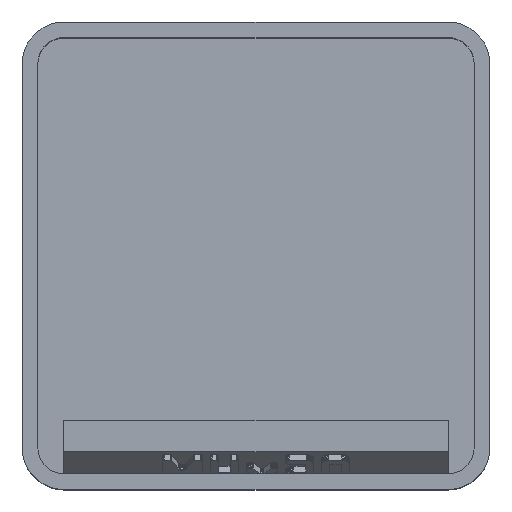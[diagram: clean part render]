
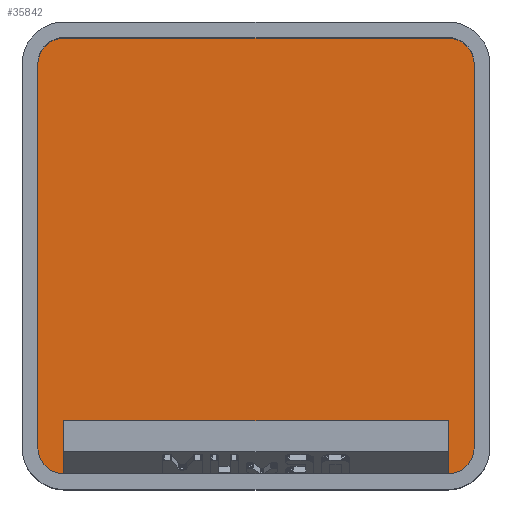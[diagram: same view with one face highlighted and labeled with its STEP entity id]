
A CAD part, top view. The second image highlights one B-rep face of the part: STEP entity #35842.
In plain terms, the highlighted planar face has unit normal (0, 0, 1).
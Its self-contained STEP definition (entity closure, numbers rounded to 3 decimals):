
#912 = PLANE('',#913);
#913 = AXIS2_PLACEMENT_3D('',#914,#915,#916);
#914 = CARTESIAN_POINT('',(-19.6,0.,30.));
#915 = DIRECTION('',(-1.,0.,0.));
#916 = DIRECTION('',(-0.,-1.,-0.));
#940 = CYLINDRICAL_SURFACE('',#941,2.35);
#941 = AXIS2_PLACEMENT_3D('',#942,#943,#944);
#942 = CARTESIAN_POINT('',(-17.25,17.25,5.95));
#943 = DIRECTION('',(-0.,-0.,1.));
#944 = DIRECTION('',(-1.,0.,0.));
#967 = PLANE('',#968);
#968 = AXIS2_PLACEMENT_3D('',#969,#970,#971);
#969 = CARTESIAN_POINT('',(0.,19.6,30.));
#970 = DIRECTION('',(0.,1.,0.));
#971 = DIRECTION('',(-1.,0.,0.));
#995 = CYLINDRICAL_SURFACE('',#996,2.35);
#996 = AXIS2_PLACEMENT_3D('',#997,#998,#999);
#997 = CARTESIAN_POINT('',(17.25,17.25,5.95));
#998 = DIRECTION('',(-0.,-0.,1.));
#999 = DIRECTION('',(-1.,0.,0.));
#1022 = PLANE('',#1023);
#1023 = AXIS2_PLACEMENT_3D('',#1024,#1025,#1026);
#1024 = CARTESIAN_POINT('',(19.6,0.,30.));
#1025 = DIRECTION('',(1.,0.,0.));
#1026 = DIRECTION('',(-0.,1.,0.));
#1050 = CYLINDRICAL_SURFACE('',#1051,2.35);
#1051 = AXIS2_PLACEMENT_3D('',#1052,#1053,#1054);
#1052 = CARTESIAN_POINT('',(17.25,-17.25,5.95));
#1053 = DIRECTION('',(-0.,-0.,1.));
#1054 = DIRECTION('',(-1.,0.,0.));
#1103 = CYLINDRICAL_SURFACE('',#1104,2.35);
#1104 = AXIS2_PLACEMENT_3D('',#1105,#1106,#1107);
#1105 = CARTESIAN_POINT('',(-17.25,-17.25,5.95));
#1106 = DIRECTION('',(-0.,-0.,1.));
#1107 = DIRECTION('',(-1.,0.,0.));
#13393 = EDGE_CURVE('',#13394,#13396,#13398,.T.);
#13394 = VERTEX_POINT('',#13395);
#13395 = CARTESIAN_POINT('',(-19.6,-17.25,5.95));
#13396 = VERTEX_POINT('',#13397);
#13397 = CARTESIAN_POINT('',(-19.6,17.25,5.95));
#13398 = SURFACE_CURVE('',#13399,(#13403,#13410),.PCURVE_S1.);
#13399 = LINE('',#13400,#13401);
#13400 = CARTESIAN_POINT('',(-19.6,0.,5.95));
#13401 = VECTOR('',#13402,1.);
#13402 = DIRECTION('',(0.,1.,0.));
#13403 = PCURVE('',#912,#13404);
#13404 = DEFINITIONAL_REPRESENTATION('',(#13405),#13409);
#13405 = LINE('',#13406,#13407);
#13406 = CARTESIAN_POINT('',(0.,-24.05));
#13407 = VECTOR('',#13408,1.);
#13408 = DIRECTION('',(-1.,0.));
#13409 = ( GEOMETRIC_REPRESENTATION_CONTEXT(2) 
PARAMETRIC_REPRESENTATION_CONTEXT() REPRESENTATION_CONTEXT('2D SPACE',''
  ) );
#13410 = PCURVE('',#13411,#13416);
#13411 = PLANE('',#13412);
#13412 = AXIS2_PLACEMENT_3D('',#13413,#13414,#13415);
#13413 = CARTESIAN_POINT('',(-17.25,-17.25,5.95));
#13414 = DIRECTION('',(0.,0.,-1.));
#13415 = DIRECTION('',(-1.,0.,0.));
#13416 = DEFINITIONAL_REPRESENTATION('',(#13417),#13421);
#13417 = LINE('',#13418,#13419);
#13418 = CARTESIAN_POINT('',(2.35,17.25));
#13419 = VECTOR('',#13420,1.);
#13420 = DIRECTION('',(0.,1.));
#13421 = ( GEOMETRIC_REPRESENTATION_CONTEXT(2) 
PARAMETRIC_REPRESENTATION_CONTEXT() REPRESENTATION_CONTEXT('2D SPACE',''
  ) );
#13468 = EDGE_CURVE('',#13469,#13394,#13471,.T.);
#13469 = VERTEX_POINT('',#13470);
#13470 = CARTESIAN_POINT('',(-17.25,-19.6,5.95));
#13471 = SURFACE_CURVE('',#13472,(#13477,#13484),.PCURVE_S1.);
#13472 = CIRCLE('',#13473,2.35);
#13473 = AXIS2_PLACEMENT_3D('',#13474,#13475,#13476);
#13474 = CARTESIAN_POINT('',(-17.25,-17.25,5.95));
#13475 = DIRECTION('',(0.,0.,-1.));
#13476 = DIRECTION('',(-1.,0.,0.));
#13477 = PCURVE('',#1103,#13478);
#13478 = DEFINITIONAL_REPRESENTATION('',(#13479),#13483);
#13479 = LINE('',#13480,#13481);
#13480 = CARTESIAN_POINT('',(6.283,0.));
#13481 = VECTOR('',#13482,1.);
#13482 = DIRECTION('',(-1.,0.));
#13483 = ( GEOMETRIC_REPRESENTATION_CONTEXT(2) 
PARAMETRIC_REPRESENTATION_CONTEXT() REPRESENTATION_CONTEXT('2D SPACE',''
  ) );
#13484 = PCURVE('',#13411,#13485);
#13485 = DEFINITIONAL_REPRESENTATION('',(#13486),#13490);
#13486 = CIRCLE('',#13487,2.35);
#13487 = AXIS2_PLACEMENT_2D('',#13488,#13489);
#13488 = CARTESIAN_POINT('',(0.,0.));
#13489 = DIRECTION('',(1.,0.));
#13490 = ( GEOMETRIC_REPRESENTATION_CONTEXT(2) 
PARAMETRIC_REPRESENTATION_CONTEXT() REPRESENTATION_CONTEXT('2D SPACE',''
  ) );
#13508 = PLANE('',#13509);
#13509 = AXIS2_PLACEMENT_3D('',#13510,#13511,#13512);
#13510 = CARTESIAN_POINT('',(0.,-19.6,30.));
#13511 = DIRECTION('',(0.,-1.,0.));
#13512 = DIRECTION('',(1.,0.,0.));
#13595 = EDGE_CURVE('',#13596,#13598,#13600,.T.);
#13596 = VERTEX_POINT('',#13597);
#13597 = CARTESIAN_POINT('',(19.6,-17.25,5.95));
#13598 = VERTEX_POINT('',#13599);
#13599 = CARTESIAN_POINT('',(17.25,-19.6,5.95));
#13600 = SURFACE_CURVE('',#13601,(#13606,#13613),.PCURVE_S1.);
#13601 = CIRCLE('',#13602,2.35);
#13602 = AXIS2_PLACEMENT_3D('',#13603,#13604,#13605);
#13603 = CARTESIAN_POINT('',(17.25,-17.25,5.95));
#13604 = DIRECTION('',(0.,0.,-1.));
#13605 = DIRECTION('',(-1.,0.,0.));
#13606 = PCURVE('',#1050,#13607);
#13607 = DEFINITIONAL_REPRESENTATION('',(#13608),#13612);
#13608 = LINE('',#13609,#13610);
#13609 = CARTESIAN_POINT('',(6.283,0.));
#13610 = VECTOR('',#13611,1.);
#13611 = DIRECTION('',(-1.,0.));
#13612 = ( GEOMETRIC_REPRESENTATION_CONTEXT(2) 
PARAMETRIC_REPRESENTATION_CONTEXT() REPRESENTATION_CONTEXT('2D SPACE',''
  ) );
#13613 = PCURVE('',#13411,#13614);
#13614 = DEFINITIONAL_REPRESENTATION('',(#13615),#13619);
#13615 = CIRCLE('',#13616,2.35);
#13616 = AXIS2_PLACEMENT_2D('',#13617,#13618);
#13617 = CARTESIAN_POINT('',(-34.5,0.));
#13618 = DIRECTION('',(1.,0.));
#13619 = ( GEOMETRIC_REPRESENTATION_CONTEXT(2) 
PARAMETRIC_REPRESENTATION_CONTEXT() REPRESENTATION_CONTEXT('2D SPACE',''
  ) );
#13693 = EDGE_CURVE('',#13596,#13694,#13696,.T.);
#13694 = VERTEX_POINT('',#13695);
#13695 = CARTESIAN_POINT('',(19.6,17.25,5.95));
#13696 = SURFACE_CURVE('',#13697,(#13701,#13708),.PCURVE_S1.);
#13697 = LINE('',#13698,#13699);
#13698 = CARTESIAN_POINT('',(19.6,0.,5.95));
#13699 = VECTOR('',#13700,1.);
#13700 = DIRECTION('',(0.,1.,0.));
#13701 = PCURVE('',#1022,#13702);
#13702 = DEFINITIONAL_REPRESENTATION('',(#13703),#13707);
#13703 = LINE('',#13704,#13705);
#13704 = CARTESIAN_POINT('',(0.,-24.05));
#13705 = VECTOR('',#13706,1.);
#13706 = DIRECTION('',(1.,0.));
#13707 = ( GEOMETRIC_REPRESENTATION_CONTEXT(2) 
PARAMETRIC_REPRESENTATION_CONTEXT() REPRESENTATION_CONTEXT('2D SPACE',''
  ) );
#13708 = PCURVE('',#13411,#13709);
#13709 = DEFINITIONAL_REPRESENTATION('',(#13710),#13714);
#13710 = LINE('',#13711,#13712);
#13711 = CARTESIAN_POINT('',(-36.85,17.25));
#13712 = VECTOR('',#13713,1.);
#13713 = DIRECTION('',(0.,1.));
#13714 = ( GEOMETRIC_REPRESENTATION_CONTEXT(2) 
PARAMETRIC_REPRESENTATION_CONTEXT() REPRESENTATION_CONTEXT('2D SPACE',''
  ) );
#13741 = EDGE_CURVE('',#13742,#13694,#13744,.T.);
#13742 = VERTEX_POINT('',#13743);
#13743 = CARTESIAN_POINT('',(17.25,19.6,5.95));
#13744 = SURFACE_CURVE('',#13745,(#13750,#13757),.PCURVE_S1.);
#13745 = CIRCLE('',#13746,2.35);
#13746 = AXIS2_PLACEMENT_3D('',#13747,#13748,#13749);
#13747 = CARTESIAN_POINT('',(17.25,17.25,5.95));
#13748 = DIRECTION('',(0.,0.,-1.));
#13749 = DIRECTION('',(-1.,0.,0.));
#13750 = PCURVE('',#995,#13751);
#13751 = DEFINITIONAL_REPRESENTATION('',(#13752),#13756);
#13752 = LINE('',#13753,#13754);
#13753 = CARTESIAN_POINT('',(6.283,0.));
#13754 = VECTOR('',#13755,1.);
#13755 = DIRECTION('',(-1.,0.));
#13756 = ( GEOMETRIC_REPRESENTATION_CONTEXT(2) 
PARAMETRIC_REPRESENTATION_CONTEXT() REPRESENTATION_CONTEXT('2D SPACE',''
  ) );
#13757 = PCURVE('',#13411,#13758);
#13758 = DEFINITIONAL_REPRESENTATION('',(#13759),#13763);
#13759 = CIRCLE('',#13760,2.35);
#13760 = AXIS2_PLACEMENT_2D('',#13761,#13762);
#13761 = CARTESIAN_POINT('',(-34.5,34.5));
#13762 = DIRECTION('',(1.,0.));
#13763 = ( GEOMETRIC_REPRESENTATION_CONTEXT(2) 
PARAMETRIC_REPRESENTATION_CONTEXT() REPRESENTATION_CONTEXT('2D SPACE',''
  ) );
#13791 = EDGE_CURVE('',#13792,#13742,#13794,.T.);
#13792 = VERTEX_POINT('',#13793);
#13793 = CARTESIAN_POINT('',(-17.25,19.6,5.95));
#13794 = SURFACE_CURVE('',#13795,(#13799,#13806),.PCURVE_S1.);
#13795 = LINE('',#13796,#13797);
#13796 = CARTESIAN_POINT('',(0.,19.6,5.95));
#13797 = VECTOR('',#13798,1.);
#13798 = DIRECTION('',(1.,0.,0.));
#13799 = PCURVE('',#967,#13800);
#13800 = DEFINITIONAL_REPRESENTATION('',(#13801),#13805);
#13801 = LINE('',#13802,#13803);
#13802 = CARTESIAN_POINT('',(0.,-24.05));
#13803 = VECTOR('',#13804,1.);
#13804 = DIRECTION('',(-1.,0.));
#13805 = ( GEOMETRIC_REPRESENTATION_CONTEXT(2) 
PARAMETRIC_REPRESENTATION_CONTEXT() REPRESENTATION_CONTEXT('2D SPACE',''
  ) );
#13806 = PCURVE('',#13411,#13807);
#13807 = DEFINITIONAL_REPRESENTATION('',(#13808),#13812);
#13808 = LINE('',#13809,#13810);
#13809 = CARTESIAN_POINT('',(-17.25,36.85));
#13810 = VECTOR('',#13811,1.);
#13811 = DIRECTION('',(-1.,0.));
#13812 = ( GEOMETRIC_REPRESENTATION_CONTEXT(2) 
PARAMETRIC_REPRESENTATION_CONTEXT() REPRESENTATION_CONTEXT('2D SPACE',''
  ) );
#13840 = EDGE_CURVE('',#13396,#13792,#13841,.T.);
#13841 = SURFACE_CURVE('',#13842,(#13847,#13854),.PCURVE_S1.);
#13842 = CIRCLE('',#13843,2.35);
#13843 = AXIS2_PLACEMENT_3D('',#13844,#13845,#13846);
#13844 = CARTESIAN_POINT('',(-17.25,17.25,5.95));
#13845 = DIRECTION('',(0.,0.,-1.));
#13846 = DIRECTION('',(-1.,0.,0.));
#13847 = PCURVE('',#940,#13848);
#13848 = DEFINITIONAL_REPRESENTATION('',(#13849),#13853);
#13849 = LINE('',#13850,#13851);
#13850 = CARTESIAN_POINT('',(6.283,0.));
#13851 = VECTOR('',#13852,1.);
#13852 = DIRECTION('',(-1.,0.));
#13853 = ( GEOMETRIC_REPRESENTATION_CONTEXT(2) 
PARAMETRIC_REPRESENTATION_CONTEXT() REPRESENTATION_CONTEXT('2D SPACE',''
  ) );
#13854 = PCURVE('',#13411,#13855);
#13855 = DEFINITIONAL_REPRESENTATION('',(#13856),#13860);
#13856 = CIRCLE('',#13857,2.35);
#13857 = AXIS2_PLACEMENT_2D('',#13858,#13859);
#13858 = CARTESIAN_POINT('',(0.,34.5));
#13859 = DIRECTION('',(1.,0.));
#13860 = ( GEOMETRIC_REPRESENTATION_CONTEXT(2) 
PARAMETRIC_REPRESENTATION_CONTEXT() REPRESENTATION_CONTEXT('2D SPACE',''
  ) );
#35842 = ADVANCED_FACE('',(#35843),#13411,.F.);
#35843 = FACE_BOUND('',#35844,.T.);
#35844 = EDGE_LOOP('',(#35845,#35846,#35847,#35868,#35869,#35870,#35871,
    #35872));
#35845 = ORIENTED_EDGE('',*,*,#13393,.F.);
#35846 = ORIENTED_EDGE('',*,*,#13468,.F.);
#35847 = ORIENTED_EDGE('',*,*,#35848,.T.);
#35848 = EDGE_CURVE('',#13469,#13598,#35849,.T.);
#35849 = SURFACE_CURVE('',#35850,(#35854,#35861),.PCURVE_S1.);
#35850 = LINE('',#35851,#35852);
#35851 = CARTESIAN_POINT('',(0.,-19.6,5.95));
#35852 = VECTOR('',#35853,1.);
#35853 = DIRECTION('',(1.,0.,0.));
#35854 = PCURVE('',#13411,#35855);
#35855 = DEFINITIONAL_REPRESENTATION('',(#35856),#35860);
#35856 = LINE('',#35857,#35858);
#35857 = CARTESIAN_POINT('',(-17.25,-2.35));
#35858 = VECTOR('',#35859,1.);
#35859 = DIRECTION('',(-1.,0.));
#35860 = ( GEOMETRIC_REPRESENTATION_CONTEXT(2) 
PARAMETRIC_REPRESENTATION_CONTEXT() REPRESENTATION_CONTEXT('2D SPACE',''
  ) );
#35861 = PCURVE('',#13508,#35862);
#35862 = DEFINITIONAL_REPRESENTATION('',(#35863),#35867);
#35863 = LINE('',#35864,#35865);
#35864 = CARTESIAN_POINT('',(0.,-24.05));
#35865 = VECTOR('',#35866,1.);
#35866 = DIRECTION('',(1.,0.));
#35867 = ( GEOMETRIC_REPRESENTATION_CONTEXT(2) 
PARAMETRIC_REPRESENTATION_CONTEXT() REPRESENTATION_CONTEXT('2D SPACE',''
  ) );
#35868 = ORIENTED_EDGE('',*,*,#13595,.F.);
#35869 = ORIENTED_EDGE('',*,*,#13693,.T.);
#35870 = ORIENTED_EDGE('',*,*,#13741,.F.);
#35871 = ORIENTED_EDGE('',*,*,#13791,.F.);
#35872 = ORIENTED_EDGE('',*,*,#13840,.F.);
